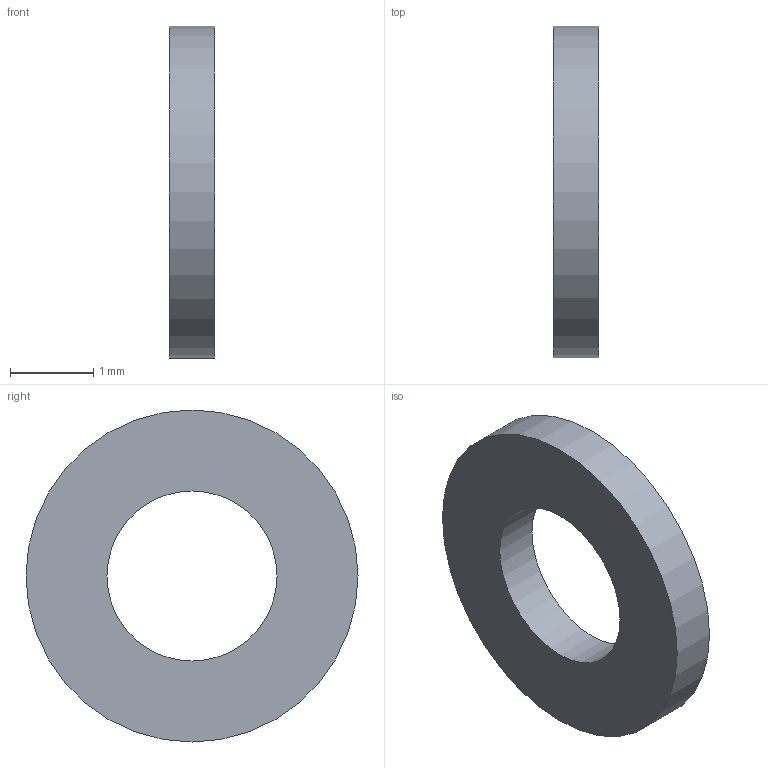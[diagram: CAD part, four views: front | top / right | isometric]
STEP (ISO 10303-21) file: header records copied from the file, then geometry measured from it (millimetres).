
FILE_DESCRIPTION(('Open CASCADE Model'),'2;1');
FILE_NAME('Open CASCADE Shape Model','2026-09-06T11:31:30',('Author'),( 'Open CASCADE'),'Open CASCADE STEP processor 7.7','Open CASCADE 7.7' ,'Unknown');
FILE_SCHEMA(('AUTOMOTIVE_DESIGN { 1 0 10303 214 1 1 1 1 }'));
Length unit declared in the file: millimetre
Products named in the file (1): Open CASCADE STEP translator 7.7 26
Bounding box: 0.55 x 4 x 4 mm (x, y, z)
Volume: 5.1 mm3; surface area: 29 mm2
Topology: 1 solids, 1 shells, 4 faces, 6 edges, 4 vertices
Faces by surface type: cylinder 2, plane 2
Full cylindrical faces by diameter (mm): 2.05 x1, 4 x1
Entity records: 192 total; most frequent: CARTESIAN_POINT 39, DIRECTION 30, ORIENTED_EDGE 12, PCURVE 12, DEFINITIONAL_REPRESENTATION 12, LINE 10, VECTOR 10, AXIS2_PLACEMENT_3D 9
